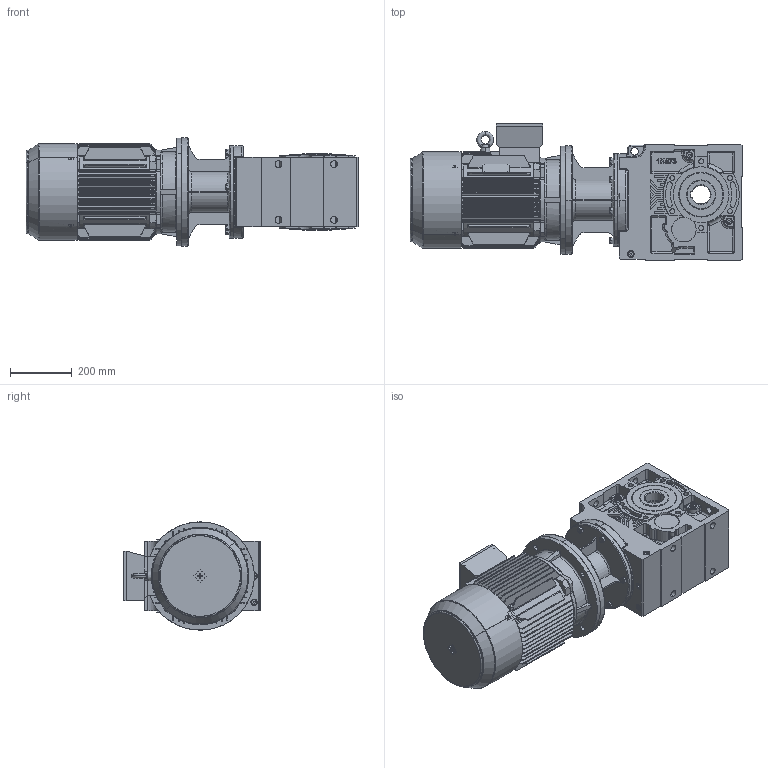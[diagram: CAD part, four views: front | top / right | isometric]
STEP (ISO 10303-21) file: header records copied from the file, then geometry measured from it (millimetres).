
FILE_DESCRIPTION (( 'STEP AP203' ), '1' );
FILE_NAME ('KV_573_0_M3-160M-4.STEP', '2019-07-18T11:53:17', ( '' ), ( '' ), 'SwSTEP 2.0', 'SolidWorks 2012', '' );
FILE_SCHEMA (( 'CONFIG_CONTROL_DESIGN' ));
Length unit declared in the file: millimetre
Products named in the file (15): KV_573_0_M3-160M-4; M3-160M-FF-B5; Y2-160_shaft; Y2-160ñ»ª­+¿_-++ñ; +ª+§ªiY2-160ñ»ª­_-++ñ; Y2-160M+À+¿(B5)_-++ñ; Y2-160-180ñ»ª­®+_-++ñ; Eyebolts GB_GB_FASTENER_SCREWS_FRS M12; +¦i-MN2-160_-++ñ; Y2-160-4Ý¾6Ý¾8-ª+---®+_-++ñ; Y2-160-2ª¥--®+_-++ñ; 53160B5_Varsayìlan; KN_57_3_0_A-B16_B5_ML59A_0_0_0_0_0_0_0_0_0_0_0_0_M1; ML59A_Varsayìlan; K573_Varsayìlan
Assembly tree (14 placements, depth 4):
  KV_573_0_M3-160M-4
    KN_57_3_0_A-B16_B5_ML59A_0_0_0_0_0_0_0_0_0_0_0_0_M1
      K573_Varsayìlan
      53160B5_Varsayìlan
      ML59A_Varsayìlan
    M3-160M-FF-B5
      Eyebolts GB_GB_FASTENER_SCREWS_FRS M12
      Y2-160-4Ý¾6Ý¾8-ª+---®+_-++ñ
      +¦i-MN2-160_-++ñ
      Y2-160-2ª¥--®+_-++ñ
      +ª+§ªiY2-160ñ»ª­_-++ñ
        Y2-160-180ñ»ª­®+_-++ñ
        Y2-160ñ»ª­+¿_-++ñ
      Y2-160M+À+¿(B5)_-++ñ
      Y2-160_shaft
Bounding box: 1073 x 441.5 x 350 mm (x, y, z)
Volume: 40298902.8 mm3; surface area: 3893429.8 mm2
Topology: 11 solids, 11 shells, 2926 faces, 7677 edges, 4860 vertices
Faces by surface type: plane 1142, cylinder 1051, cone 256, bspline 237, torus 154, sphere 86
Entity records: 137302 total; most frequent: CARTESIAN_POINT 66870, ORIENTED_EDGE 15048, DIRECTION 13266, EDGE_CURVE 7524, AXIS2_PLACEMENT_3D 4833, VERTEX_POINT 4803, VECTOR 3600, LINE 3600
